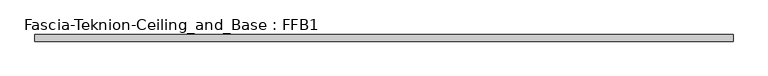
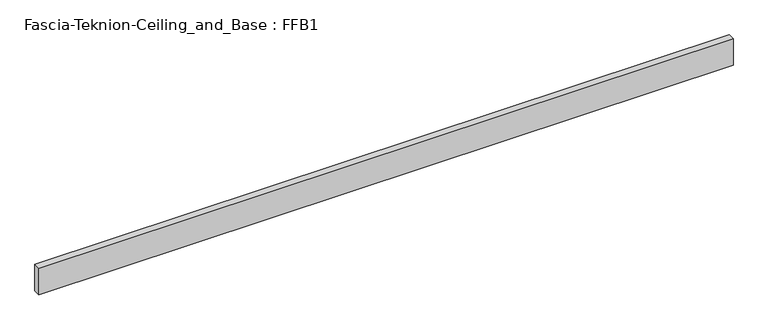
"""IFC4 building model written with IfcOpenShell, lengths in millimetres: proxy geometry, Fascia-Teknion-Ceiling_and_Base : FFB1."""

from ifc_helpers import new_model, si_unit, origin, origin_with_axes, place, context, project, spatial, polyline, outline, extrude, source, transform, mapped, element, save


def fascia_teknion_ceiling_and_base_ffb1_eec853f0(model_context):
    return source(origin(), model_context, "Body", "SweptSolid", [
        extrude(outline(polyline([(1005.8356344, 0.0), (-1005.8356344, 0.0), (-1005.8356344, 19.05), (1005.8356344, 19.05), (1005.8356344, 0.0)])), origin_with_axes(), (0.0, 0.0, 1.0), 81.28),
    ])


if __name__ == "__main__":
    model = new_model("IFC4")
    model_context = context("Model", 3, world=origin())
    ifc_project = project(units=[si_unit("LENGTHUNIT", "METRE", prefix="MILLI")], contexts=[model_context])
    site = spatial("IfcSite", under=ifc_project)
    building = spatial("IfcBuilding", under=site)
    placement = place(None, origin())
    fascia_teknion_ceiling_and_base_ffb1_shape = fascia_teknion_ceiling_and_base_ffb1_eec853f0(model_context)
    element("IfcBuildingElementProxy", 1, Name="Fascia-Teknion-Ceiling_and_Base : FFB1", ObjectType="Fascia-Teknion-Ceiling_and_Base : FFB1", at=placement, inside=building, context=model_context, shape_type="MappedRepresentation", body=[
        mapped(fascia_teknion_ceiling_and_base_ffb1_shape, transform((0.0, 0.0, 0.0), x_axis=(1.0, 0.0, 0.0), y_axis=(0.0, 1.0, 0.0), z_axis=(0.0, 0.0, 1.0))),
    ])
    save(model, "model.ifc")
